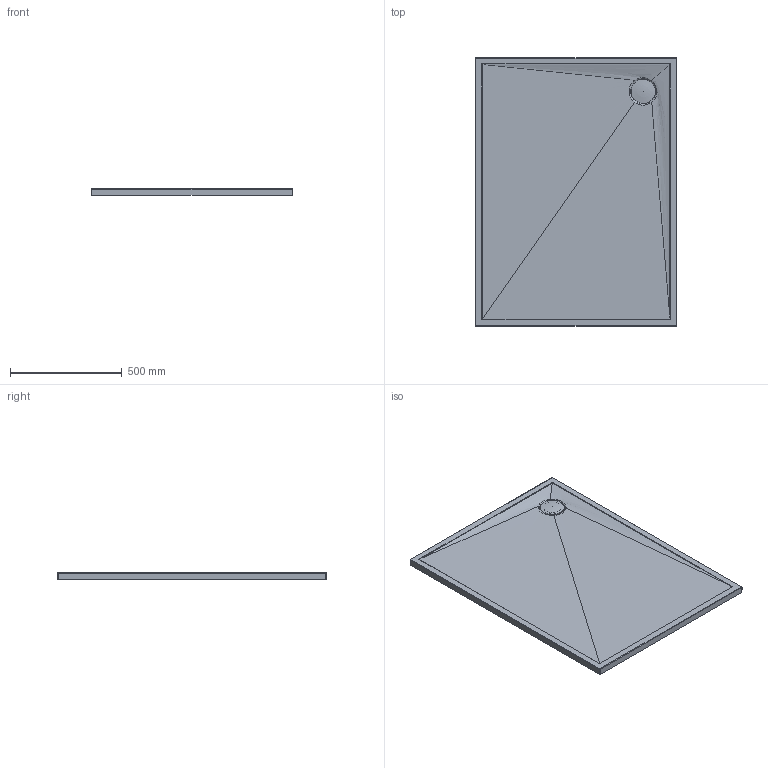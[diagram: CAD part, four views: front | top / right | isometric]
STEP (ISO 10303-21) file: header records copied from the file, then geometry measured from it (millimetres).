
FILE_DESCRIPTION(/* description */ (''),/* implementation_level */ '2;1');
FILE_NAME(/* name */ 'c:\worker\convert-fusion-r02\tmp\job-1\17\output\files\fd07c818-0b0e-4f40-9611-2246c98b88ad\5280e5c9-bc05-4c50-b2c7-76988f1809cc.stp',/* time_stamp */ '2020-03-20T10:49:11+00:00',/* author */ (''),/* organization */ (''),/* preprocessor_version */ 'ST-DEVELOPER v18',/* originating_system */ 'Autodesk Translation Framework v8.12.0.6',/* authorisation */ '');
FILE_SCHEMA (('AUTOMOTIVE_DESIGN { 1 0 10303 214 3 1 1 }'));
Length unit declared in the file: millimetre
Products named in the file (1): 90x120
Bounding box: 900 x 1200 x 30 mm (x, y, z)
Volume: 26987342.8 mm3; surface area: 2296158.8 mm2
Topology: 2 solids, 2 shells, 33 faces, 83 edges, 54 vertices
Faces by surface type: cylinder 10, plane 8, bspline 8, sphere 4, torus 2, cone 1
Full cylindrical faces by diameter (mm): 80.658 x1, 90 x1
Entity records: 1290 total; most frequent: CARTESIAN_POINT 477, ORIENTED_EDGE 164, DIRECTION 160, EDGE_CURVE 82, AXIS2_PLACEMENT_3D 66, VERTEX_POINT 54, CIRCLE 40, EDGE_LOOP 36
